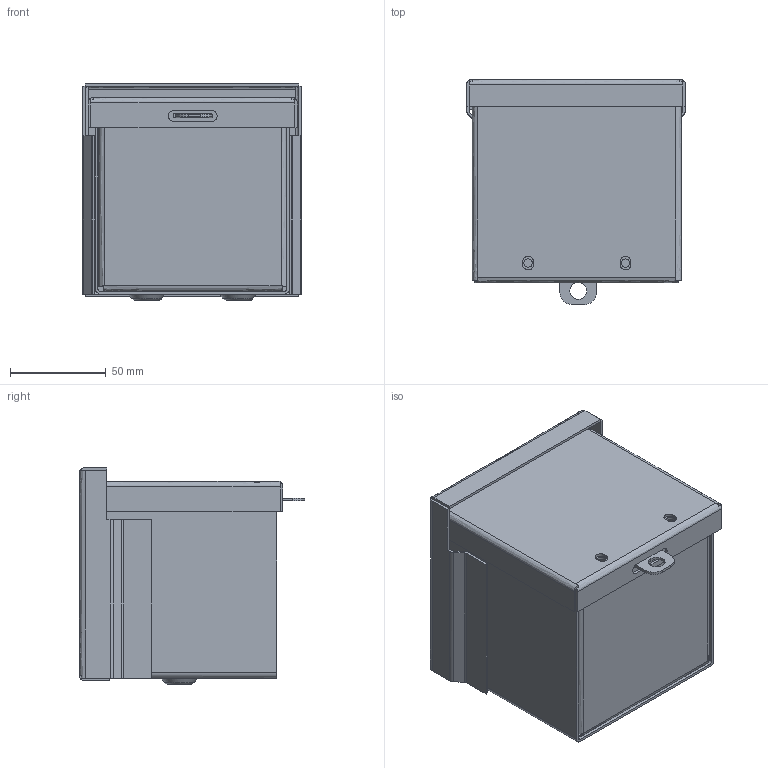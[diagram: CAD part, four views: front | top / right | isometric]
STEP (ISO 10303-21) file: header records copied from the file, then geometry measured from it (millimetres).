
FILE_DESCRIPTION((''),'2;1');
FILE_NAME('D:\scratch\ideas\a4r44nk.stp','2006-12-19T10:05:34',( 'User'),('SDRC'),'I-DEAS Master Series 9','UNIX','Yes');
FILE_SCHEMA(('AUTOMOTIVE_DESIGN { 1 0 10303 214 0 1 1 1 }'));
Length unit declared in the file: inch
Products named in the file (7): 13478; 3rsc_wmt_body_4x4x4; 3rsc_top_4x4; 3rsc_bottom_4x4; 3rsc_body_4x4x4; 3rsc_cover_4x4; 78124001
Assembly tree (6 placements, depth 3):
  13478
    3rsc_wmt_body_4x4x4
      3rsc_top_4x4
      3rsc_bottom_4x4
      3rsc_body_4x4x4
    3rsc_cover_4x4
    78124001
Bounding box: 114.3 x 117.55 x 113.03 mm (x, y, z)
Volume: 118940.4 mm3; surface area: 174358.6 mm2
Topology: 5 solids, 5 shells, 221 faces, 581 edges, 372 vertices
Faces by surface type: bspline 221
Entity records: 6908 total; most frequent: CARTESIAN_POINT 3139, ORIENTED_EDGE 1162, EDGE_CURVE 581, VERTEX_POINT 372, QUASI_UNIFORM_CURVE 302, EDGE_LOOP 247, FACE_OUTER_BOUND 221, ADVANCED_FACE 221
